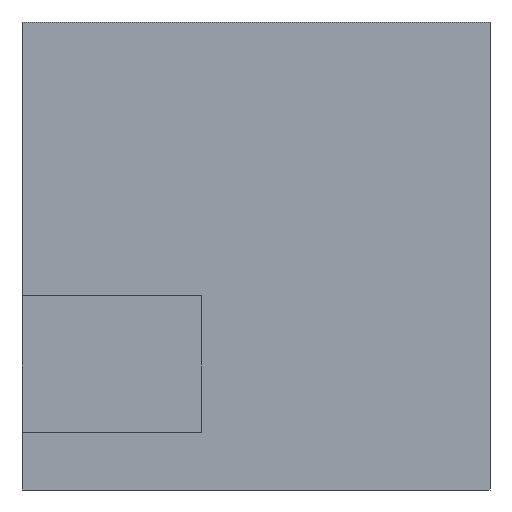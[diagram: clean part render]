
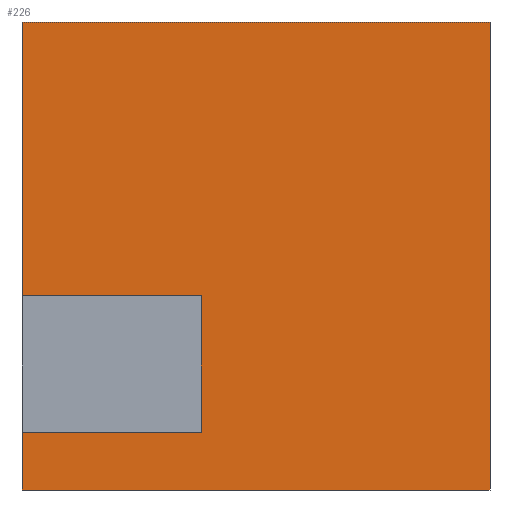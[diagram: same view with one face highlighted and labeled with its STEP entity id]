
A CAD part, left-side view. The second image highlights one B-rep face of the part: STEP entity #226.
In plain terms, the highlighted planar face has unit normal (-1, 0, 0).
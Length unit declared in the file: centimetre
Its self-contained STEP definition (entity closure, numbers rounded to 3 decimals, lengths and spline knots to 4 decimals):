
#2 = VECTOR ( 'NONE', #525, 100. ) ;
#8 = EDGE_CURVE ( 'NONE', #186, #425, #537, .T. ) ;
#17 = CARTESIAN_POINT ( 'NONE',  ( 0., 617.4204, 123.0418 ) ) ;
#28 = EDGE_CURVE ( 'NONE', #438, #173, #245, .T. ) ;
#67 = AXIS2_PLACEMENT_3D ( 'NONE', #252, #74, #562 ) ;
#70 = CARTESIAN_POINT ( 'NONE',  ( 0., 617.4204, 123.0418 ) ) ;
#74 = DIRECTION ( 'NONE',  ( 1., 0., 0. ) ) ;
#90 = DIRECTION ( 'NONE',  ( 0., 1., 0. ) ) ;
#115 = LINE ( 'NONE', #160, #520 ) ;
#120 = DIRECTION ( 'NONE',  ( 0., -1., 0. ) ) ;
#124 = CARTESIAN_POINT ( 'NONE',  ( 0., 1000., 1000. ) ) ;
#129 = CARTESIAN_POINT ( 'NONE',  ( 0., 1000., 415.4536 ) ) ;
#160 = CARTESIAN_POINT ( 'NONE',  ( 0., 1000., 1000. ) ) ;
#161 = DIRECTION ( 'NONE',  ( 0., 0., -1. ) ) ;
#170 = CARTESIAN_POINT ( 'NONE',  ( 0., 1000., 1000. ) ) ;
#172 = DIRECTION ( 'NONE',  ( 0., -1., 0. ) ) ;
#173 = VERTEX_POINT ( 'NONE', #554 ) ;
#183 = ORIENTED_EDGE ( 'NONE', *, *, #406, .T. ) ;
#186 = VERTEX_POINT ( 'NONE', #314 ) ;
#199 = VERTEX_POINT ( 'NONE', #515 ) ;
#208 = DIRECTION ( 'NONE',  ( 0., 0., -1. ) ) ;
#219 = FACE_OUTER_BOUND ( 'NONE', #419, .T. ) ;
#226 = ADVANCED_FACE ( 'NONE', ( #219 ), #306, .F. ) ;
#239 = VERTEX_POINT ( 'NONE', #316 ) ;
#245 = LINE ( 'NONE', #386, #598 ) ;
#252 = CARTESIAN_POINT ( 'NONE',  ( 0., 1000., 1000. ) ) ;
#272 = LINE ( 'NONE', #467, #613 ) ;
#273 = ORIENTED_EDGE ( 'NONE', *, *, #387, .F. ) ;
#281 = ORIENTED_EDGE ( 'NONE', *, *, #8, .F. ) ;
#292 = EDGE_CURVE ( 'NONE', #199, #323, #465, .T. ) ;
#300 = EDGE_CURVE ( 'NONE', #199, #239, #350, .T. ) ;
#306 = PLANE ( 'NONE',  #67 ) ;
#308 = VECTOR ( 'NONE', #120, 100. ) ;
#313 = CARTESIAN_POINT ( 'NONE',  ( 0., 0., 1000. ) ) ;
#314 = CARTESIAN_POINT ( 'NONE',  ( 0., 617.4204, 415.4536 ) ) ;
#316 = CARTESIAN_POINT ( 'NONE',  ( 0., 617.4204, 123.0418 ) ) ;
#323 = VERTEX_POINT ( 'NONE', #605 ) ;
#330 = ORIENTED_EDGE ( 'NONE', *, *, #454, .F. ) ;
#347 = VECTOR ( 'NONE', #504, 100. ) ;
#350 = LINE ( 'NONE', #17, #308 ) ;
#382 = VERTEX_POINT ( 'NONE', #124 ) ;
#386 = CARTESIAN_POINT ( 'NONE',  ( 0., 0., 1000. ) ) ;
#387 = EDGE_CURVE ( 'NONE', #382, #438, #617, .T. ) ;
#406 = EDGE_CURVE ( 'NONE', #323, #173, #272, .T. ) ;
#419 = EDGE_LOOP ( 'NONE', ( #330, #440, #473, #183, #630, #273, #444, #281 ) ) ;
#425 = VERTEX_POINT ( 'NONE', #129 ) ;
#438 = VERTEX_POINT ( 'NONE', #313 ) ;
#440 = ORIENTED_EDGE ( 'NONE', *, *, #300, .F. ) ;
#443 = DIRECTION ( 'NONE',  ( 0., 0., -1. ) ) ;
#444 = ORIENTED_EDGE ( 'NONE', *, *, #527, .T. ) ;
#454 = EDGE_CURVE ( 'NONE', #239, #186, #566, .T. ) ;
#465 = LINE ( 'NONE', #615, #589 ) ;
#467 = CARTESIAN_POINT ( 'NONE',  ( 0., 1000., 0. ) ) ;
#473 = ORIENTED_EDGE ( 'NONE', *, *, #292, .T. ) ;
#487 = CARTESIAN_POINT ( 'NONE',  ( 0., 617.4204, 415.4536 ) ) ;
#504 = DIRECTION ( 'NONE',  ( 0., 0., 1. ) ) ;
#515 = CARTESIAN_POINT ( 'NONE',  ( 0., 1000., 123.0418 ) ) ;
#520 = VECTOR ( 'NONE', #208, 100. ) ;
#525 = DIRECTION ( 'NONE',  ( 0., -1., 0. ) ) ;
#527 = EDGE_CURVE ( 'NONE', #382, #425, #115, .T. ) ;
#537 = LINE ( 'NONE', #487, #563 ) ;
#554 = CARTESIAN_POINT ( 'NONE',  ( 0., 0., 0. ) ) ;
#562 = DIRECTION ( 'NONE',  ( 0., 0., -1. ) ) ;
#563 = VECTOR ( 'NONE', #90, 100. ) ;
#566 = LINE ( 'NONE', #70, #347 ) ;
#589 = VECTOR ( 'NONE', #161, 100. ) ;
#598 = VECTOR ( 'NONE', #443, 100. ) ;
#605 = CARTESIAN_POINT ( 'NONE',  ( 0., 1000., 0. ) ) ;
#613 = VECTOR ( 'NONE', #172, 100. ) ;
#615 = CARTESIAN_POINT ( 'NONE',  ( 0., 1000., 1000. ) ) ;
#617 = LINE ( 'NONE', #170, #2 ) ;
#630 = ORIENTED_EDGE ( 'NONE', *, *, #28, .F. ) ;
